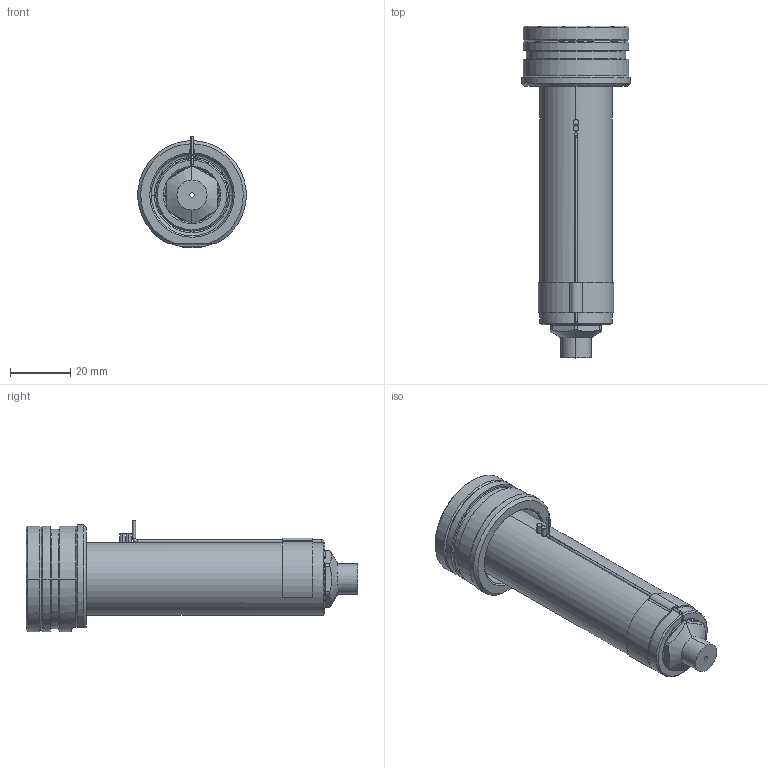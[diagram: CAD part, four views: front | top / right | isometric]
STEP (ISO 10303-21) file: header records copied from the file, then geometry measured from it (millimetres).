
FILE_DESCRIPTION((''),'2;1');
FILE_NAME('EO06_VG-FB_WR_090_SW','2024-02-19T13:26:52',('sundharh'),(''),'CREO PARAMETRIC BY PTC INC, 2023154','CREO PARAMETRIC BY PTC INC, 2023154','');
FILE_SCHEMA(('CONFIG_CONTROL_DESIGN'));
Length unit declared in the file: millimetre
Products named in the file (1): EO06_VG-FB_WR_090_SW
Bounding box: 35.93 x 110 x 37 mm (x, y, z)
Volume: 51664.1 mm3; surface area: 15901.6 mm2
Topology: 2 solids, 2 shells, 203 faces, 502 edges, 301 vertices
Faces by surface type: cylinder 76, plane 42, cone 38, torus 29, bspline 16, sphere 2
Entity records: 6940 total; most frequent: CARTESIAN_POINT 2064, DIRECTION 1090, ORIENTED_EDGE 992, EDGE_CURVE 496, AXIS2_PLACEMENT_3D 461, VERTEX_POINT 301, CIRCLE 274, EDGE_LOOP 217
